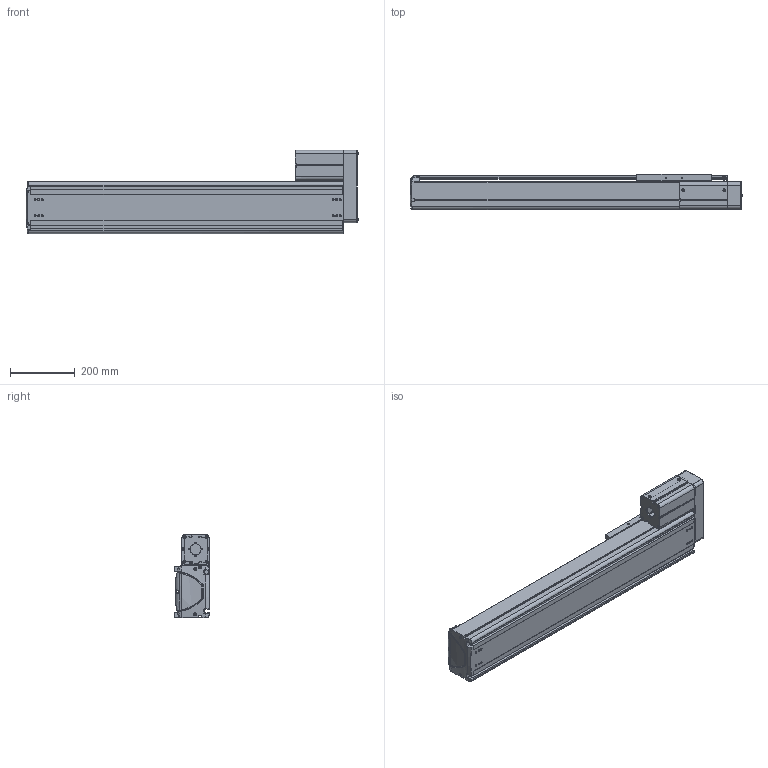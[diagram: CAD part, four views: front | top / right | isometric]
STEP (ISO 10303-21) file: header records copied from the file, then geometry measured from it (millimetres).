
FILE_DESCRIPTION((''),'2;1');
FILE_NAME('BE50F-UR-L_N-65_IGS_PRT','2017-06-18T',(' '),(''),'PRO/ENGINEER BY PARAMETRIC TECHNOLOGY CORPORATION, 2015030','PRO/ENGINEER BY PARAMETRIC TECHNOLOGY CORPORATION, 2015030','');
FILE_SCHEMA(('CONFIG_CONTROL_DESIGN'));
Length unit declared in the file: millimetre
Products named in the file (1): BE50F-UR-L_N-65_IGS_PRT
Bounding box: 1025.88 x 110 x 257 mm (x, y, z)
Volume: 5037406 mm3; surface area: 1836952.4 mm2
Topology: 2 solids, 125 shells, 2209 faces, 6021 edges, 3925 vertices
Faces by surface type: plane 1010, cylinder 931, cone 129, torus 59, bspline 48, sphere 32
Entity records: 73177 total; most frequent: CARTESIAN_POINT 16724, DIRECTION 11826, ORIENTED_EDGE 11480, EDGE_CURVE 5972, AXIS2_PLACEMENT_3D 4214, VERTEX_POINT 3920, VECTOR 3398, LINE 3398
